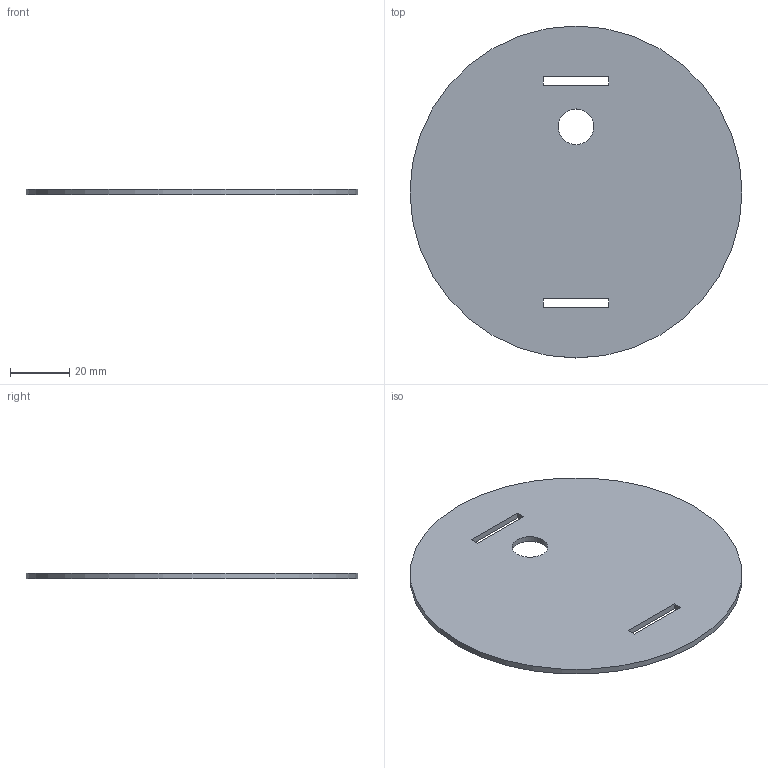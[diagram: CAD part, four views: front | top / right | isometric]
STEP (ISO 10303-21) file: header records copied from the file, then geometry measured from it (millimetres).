
FILE_DESCRIPTION(('FreeCAD Model'),'2;1');
FILE_NAME('Open CASCADE Shape Model','2026-10-22T12:56:02',('FreeCAD'),( 'FreeCAD'),'Open CASCADE STEP processor 8.0','FreeCAD','Unknown');
FILE_SCHEMA(('AUTOMOTIVE_DESIGN { 1 0 10303 214 1 1 1 1 }'));
Length unit declared in the file: millimetre
Products named in the file (1): Open CASCADE STEP translator 8.0 3
Bounding box: 112 x 112 x 2 mm (x, y, z)
Volume: 19213.9 mm3; surface area: 20193 mm2
Topology: 1 solids, 1 shells, 12 faces, 30 edges, 20 vertices
Faces by surface type: plane 10, cylinder 2
Full cylindrical faces by diameter (mm): 12 x1, 112 x1
Entity records: 380 total; most frequent: CARTESIAN_POINT 63, DIRECTION 60, ORIENTED_EDGE 60, EDGE_CURVE 30, LINE 26, VECTOR 26, VERTEX_POINT 20, FACE_BOUND 18
